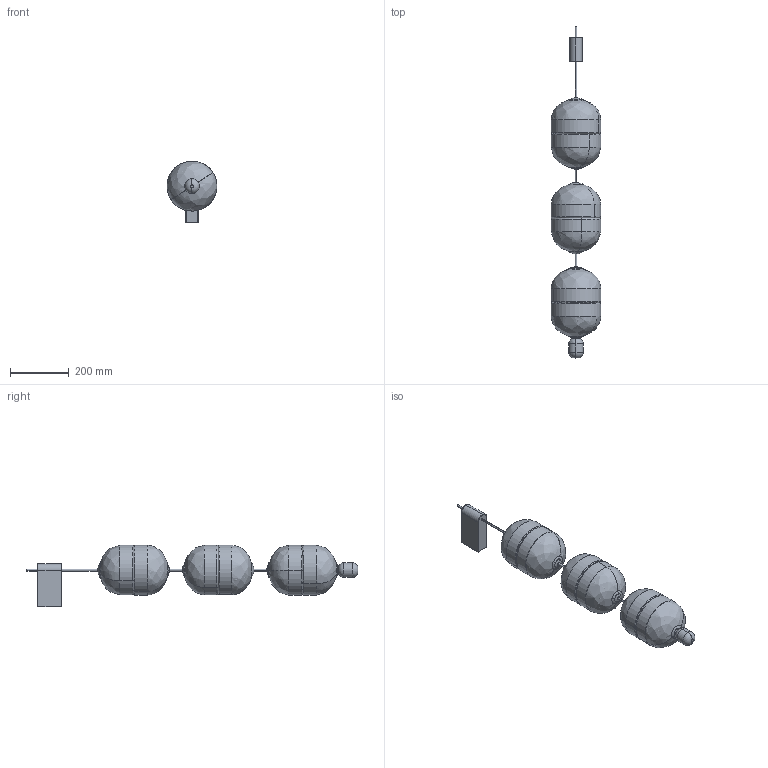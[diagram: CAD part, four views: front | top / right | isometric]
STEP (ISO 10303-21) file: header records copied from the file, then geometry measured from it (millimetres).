
FILE_DESCRIPTION (( 'STEP AP203' ), '1' );
FILE_NAME ('Light Weight - Indre - Indre Wall Mount C.STEP', '2023-06-13T07:18:56', ( '' ), ( '' ), 'SwSTEP 2.0', 'SolidWorks 2017', '' );
FILE_SCHEMA (( 'CONFIG_CONTROL_DESIGN' ));
Length unit declared in the file: millimetre
Products named in the file (1): Light Weight - Indre - Indre Wall Mount C
Bounding box: 170 x 1133.5 x 210 mm (x, y, z)
Volume: 1925785 mm3; surface area: 1287560.6 mm2
Topology: 21 solids, 21 shells, 387 faces, 891 edges, 535 vertices
Faces by surface type: cylinder 128, torus 102, bspline 56, plane 47, sphere 28, cone 26
Entity records: 13902 total; most frequent: CARTESIAN_POINT 4930, DIRECTION 2101, ORIENTED_EDGE 1778, AXIS2_PLACEMENT_3D 956, EDGE_CURVE 889, CIRCLE 624, VERTEX_POINT 535, EDGE_LOOP 410
